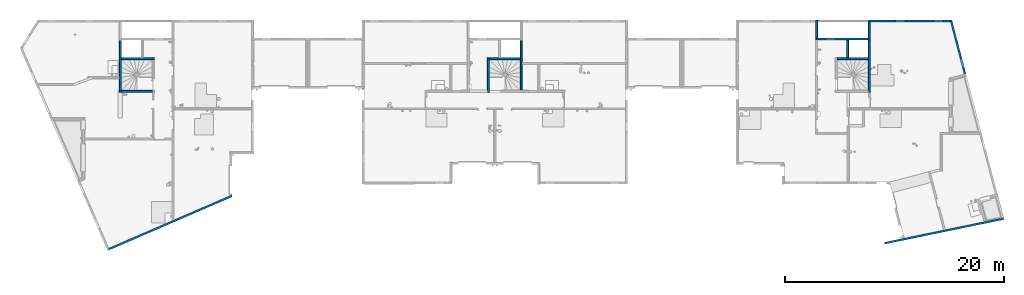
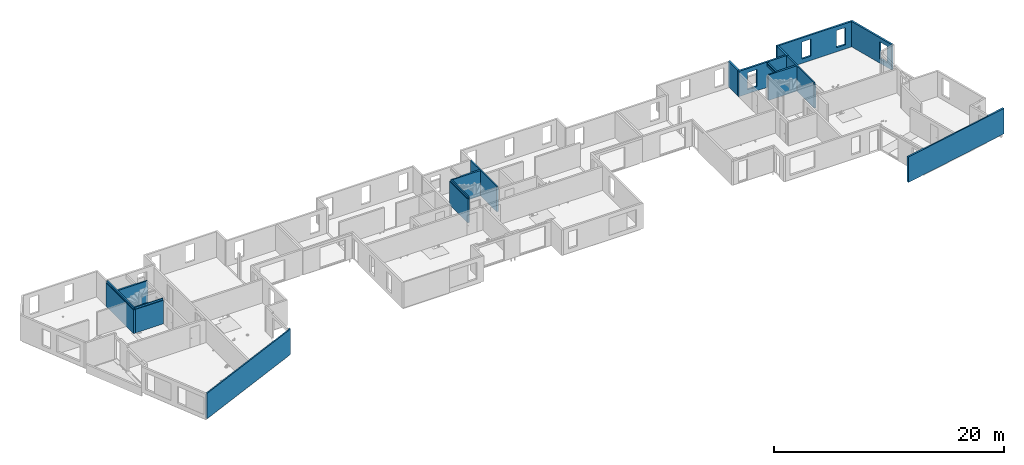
# One storey, part 19 of 30: 16 walls, 10 openings.
"""IFC2X3 building model written with IfcOpenShell, lengths in centimetres."""

from ifc_helpers import new_model, entity, si_unit, converted_unit, derived_unit, direction, frame, frame_2d, origin, place, context, subcontext, project, spatial, polyline, rectangle, outline, extrude, clip, bounded_halfspace, faceted_brep, material, layer, layer_set, layer_usage, type_object, element, save


model = new_model("IFC2X3")

# Units and contexts
model_context = context("Model", 3, precision=0.001, world=origin(), true_north=direction((6.12303176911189e-17, 1.0)))
body_context = subcontext(model_context, "Body", "Model", "MODEL_VIEW")
ifc_project = project(units=[si_unit("LENGTHUNIT", "METRE", prefix="CENTI"), si_unit("AREAUNIT", "SQUARE_METRE"), si_unit("VOLUMEUNIT", "CUBIC_METRE"), converted_unit("PLANEANGLEUNIT", "DEGREE", entity("IfcRatioMeasure", 0.0174532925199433), si_unit("PLANEANGLEUNIT", "RADIAN"), dimensions=[0, 0, 0, 0, 0, 0, 0]), si_unit("MASSUNIT", "GRAM", prefix="KILO"), derived_unit("MASSDENSITYUNIT", [(si_unit("MASSUNIT", "GRAM", prefix="KILO"), 1), (si_unit("LENGTHUNIT", "METRE"), -3)]), si_unit("TIMEUNIT", "SECOND"), si_unit("FREQUENCYUNIT", "HERTZ"), si_unit("THERMODYNAMICTEMPERATUREUNIT", "DEGREE_CELSIUS"), derived_unit("THERMALTRANSMITTANCEUNIT", [(si_unit("MASSUNIT", "GRAM", prefix="KILO"), 1), (si_unit("THERMODYNAMICTEMPERATUREUNIT", "KELVIN"), -1), (si_unit("TIMEUNIT", "SECOND"), -3)]), derived_unit("VOLUMETRICFLOWRATEUNIT", [(si_unit("LENGTHUNIT", "METRE"), 3), (si_unit("TIMEUNIT", "SECOND"), -1)]), si_unit("ELECTRICCURRENTUNIT", "AMPERE"), si_unit("ELECTRICVOLTAGEUNIT", "VOLT"), si_unit("POWERUNIT", "WATT"), si_unit("FORCEUNIT", "NEWTON"), si_unit("ILLUMINANCEUNIT", "LUX"), si_unit("LUMINOUSFLUXUNIT", "LUMEN"), si_unit("LUMINOUSINTENSITYUNIT", "CANDELA"), derived_unit("USERDEFINED", [(si_unit("MASSUNIT", "GRAM", prefix="KILO"), -1), (si_unit("LENGTHUNIT", "METRE"), -2), (si_unit("TIMEUNIT", "SECOND"), 3), (si_unit("LUMINOUSFLUXUNIT", "LUMEN"), 1)]), derived_unit("LINEARVELOCITYUNIT", [(si_unit("LENGTHUNIT", "METRE"), 1), (si_unit("TIMEUNIT", "SECOND"), -1)]), si_unit("PRESSUREUNIT", "PASCAL"), derived_unit("USERDEFINED", [(si_unit("LENGTHUNIT", "METRE"), -2), (si_unit("MASSUNIT", "GRAM", prefix="KILO"), 1), (si_unit("TIMEUNIT", "SECOND"), -2)])], contexts=[model_context])

# Site, building, storey
site_placement = place(None, origin())
site = spatial("IfcSite", under=ifc_project, at=site_placement, Name="Default", CompositionType="ELEMENT")
building_placement = place(site_placement, origin())
building = spatial("IfcBuilding", under=site, at=building_placement, Name="CAGE 03", CompositionType="ELEMENT")
storey_placement = place(building_placement, frame((0.0, 0.0, 610.0)))
storey = spatial("IfcBuildingStorey", under=building, at=storey_placement, Name="R+2", CompositionType="ELEMENT", Elevation=610.0)

# Wall, openings
ifc_material = material(Name="Béton, C25/30")
ifc_layer = layer(ifc_material, 18.0)
ifc_layer_set = layer_set([ifc_layer], Name="Mur de base:Voile BA 18")
ifc_layer_usage_1 = layer_usage(ifc_layer_set, "AXIS2", "NEGATIVE", 9.0)
wall_type_1 = type_object("IfcWallType", Name="Mur de base:Voile BA 18", PredefinedType="STANDARD", material=ifc_layer_set)
wall_1_placement = place(storey_placement, frame((11373.0570193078, 4801.46871667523, 0.0), z_axis=(0.0, 0.0, 1.0), x_axis=(-0.252679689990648, 0.967549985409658, 0.0)))
wall_1 = element("IfcWallStandardCase", 1, at=wall_1_placement, inside=storey, type_object=wall_type_1, material=ifc_layer_usage_1, Name="Mur de base:Voile BA 18", ObjectType="Mur de base:Voile BA 18", context=body_context, shape_type="SweptSolid", body=[
    extrude(outline(polyline([(506.348860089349, -9.0), (511.049634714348, 9.0), (492.445944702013, 9.0), (0.0, 9.0), (0.0, -9.0), (506.348860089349, -9.0)])), origin(), (0.0, 0.0, 1.0), 270.0),
])
opening_1_placement = place(wall_1_placement, origin())
element("IfcOpeningElement", 2, at=opening_1_placement, cuts=wall_1, Name="Mur de base:Voile BA 18", ObjectType="Recess", context=body_context, shape_type="SweptSolid", body=[
    extrude(rectangle(XDim=181.0, YDim=184.0, at=frame_2d((4.2632564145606e-13, 5.6843418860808e-14), x_axis=(0.0, 1.0))), frame((238.0, -9.0, 135.5), z_axis=(0.0, 1.0, 0.0), x_axis=(1.0, 0.0, 0.0)), (0.0, 0.0, 1.0), 1.99999999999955),
])
opening_2_placement = place(wall_1_placement, origin())
element("IfcOpeningElement", 3, at=opening_2_placement, cuts=wall_1, Name="Mur de base:Voile BA 18", ObjectType="Recess", context=body_context, shape_type="SweptSolid", body=[
    extrude(rectangle(XDim=181.0, YDim=273.0, at=frame_2d((-2.1316282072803e-13, 1.06581410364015e-13), x_axis=(0.0, 1.0))), frame((-854.500000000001, -9.0, 135.5), z_axis=(0.0, 1.0, 0.0), x_axis=(1.0, 0.0, 0.0)), (0.0, 0.0, 1.0), 1.99999999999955),
])
opening_3_placement = place(wall_1_placement, frame((-1771.9204648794, 12217.2347799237, 0.0), z_axis=(0.0, 0.0, 1.0), x_axis=(-0.252679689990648, -0.967549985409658, 0.0)))
element("IfcOpeningElement", 4, at=opening_3_placement, cuts=wall_1, Name="Mur de base:Voile BA 18", ObjectType="Opening", context=body_context, shape_type="SweptSolid", body=[
    extrude(rectangle(XDim=181.0, YDim=91.0000000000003, at=frame_2d((0.0, -2.16715534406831e-13), x_axis=(1.0, 0.0))), frame((11503.8252781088, 4939.48999217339, 135.5), z_axis=(-0.967549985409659, -0.252679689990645, 0.0), x_axis=(0.0, 0.0, 1.0)), (0.0, 0.0, 1.0), 304.8),
])

ifc_layer_usage_2 = layer_usage(ifc_layer_set, "AXIS2", "NEGATIVE", 9.0)
wall_2_placement = place(storey_placement, frame((11239.9179807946, 5284.66066607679, 0.0), z_axis=(0.0, 0.0, 1.0), x_axis=(-1.0, 0.0, 0.0)))
wall_2 = element("IfcWallStandardCase", 5, at=wall_2_placement, inside=storey, type_object=wall_type_1, material=ifc_layer_usage_2, Name="Mur de base:Voile BA 18", ObjectType="Mur de base:Voile BA 18", context=body_context, shape_type="SweptSolid", body=[
    extrude(outline(polyline([(749.552160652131, -9.0), (749.552160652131, 9.0), (731.552160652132, 9.0), (0.0, 9.0), (4.70077462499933, -9.0), (749.552160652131, -9.0)])), origin(), (0.0, 0.0, 1.0), 270.0),
])
opening_4_placement = place(wall_2_placement, origin())
element("IfcOpeningElement", 6, at=opening_4_placement, cuts=wall_2, Name="Mur de base:Voile BA 18", ObjectType="Recess", context=body_context, shape_type="SweptSolid", body=[
    extrude(rectangle(XDim=181.0, YDim=184.0, at=frame_2d((0.0, 5.6843418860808e-14), x_axis=(0.0, 1.0))), frame((591.552160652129, -9.0, 135.5), z_axis=(0.0, 1.0, 0.0), x_axis=(1.0, 0.0, 0.0)), (0.0, 0.0, 1.0), 1.99999999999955),
])
opening_5_placement = place(wall_2_placement, origin())
element("IfcOpeningElement", 7, at=opening_5_placement, cuts=wall_2, Name="Mur de base:Voile BA 18", ObjectType="Recess", context=body_context, shape_type="SweptSolid", body=[
    extrude(rectangle(XDim=181.0, YDim=184.0, at=frame_2d((0.0, -5.6843418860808e-14), x_axis=(0.0, 1.0))), frame((246.552160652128, -9.0, 135.499999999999), z_axis=(0.0, 1.0, 0.0), x_axis=(1.0, 0.0, 0.0)), (0.0, 0.0, 1.0), 1.99999999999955),
])
opening_6_placement = place(wall_2_placement, frame((11239.9179807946, 5284.66066607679, 0.0), z_axis=(0.0, 0.0, 1.0), x_axis=(-1.0, 0.0, 0.0)))
element("IfcOpeningElement", 8, at=opening_6_placement, cuts=wall_2, Name="Mur de base:Voile BA 18", ObjectType="Opening", context=body_context, shape_type="SweptSolid", body=[
    extrude(rectangle(XDim=181.0, YDim=90.9999999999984, at=frame_2d((-8.66862137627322e-13, 0.0), x_axis=(0.0, 1.0))), frame((10785.8658201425, 5428.06066607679, 135.5), z_axis=(0.0, -1.0, 0.0), x_axis=(1.0, 0.0, 0.0)), (0.0, 0.0, 1.0), 304.8),
])
opening_7_placement = place(wall_2_placement, frame((11239.9179807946, 5284.66066607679, 0.0), z_axis=(0.0, 0.0, 1.0), x_axis=(-1.0, 0.0, 0.0)))
element("IfcOpeningElement", 9, at=opening_7_placement, cuts=wall_2, Name="Mur de base:Voile BA 18", ObjectType="Opening", context=body_context, shape_type="SweptSolid", body=[
    extrude(rectangle(XDim=181.0, YDim=90.9999999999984, at=frame_2d((8.66862137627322e-13, 0.0), x_axis=(0.0, 1.0))), frame((11130.8658201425, 5428.06066607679, 135.5), z_axis=(0.0, -1.0, 0.0), x_axis=(1.0, 0.0, 0.0)), (0.0, 0.0, 1.0), 304.8),
])

# Wall
ifc_layer_usage_3 = layer_usage(ifc_layer_set, "AXIS2", "POSITIVE", -9.0)
wall_3_placement = place(storey_placement, frame((10499.3658201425, 5275.66066607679, 0.0), z_axis=(0.0, 0.0, 1.0), x_axis=(0.0, -1.0, 0.0)))
element("IfcWallStandardCase", 10, at=wall_3_placement, inside=storey, type_object=wall_type_1, material=ifc_layer_usage_3, Name="Mur de base:Voile BA 18", ObjectType="Mur de base:Voile BA 18", context=body_context, shape_type="SweptSolid", body=[
    extrude(rectangle(XDim=164.999999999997, YDim=17.9999999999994, at=frame_2d((82.4999999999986, 1.11022302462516e-13), x_axis=(-1.0, 0.0))), origin(), (0.0, 0.0, 1.0), 270.0),
])

# Wall, openings
ifc_layer_usage_4 = layer_usage(ifc_layer_set, "AXIS2", "POSITIVE", -9.0)
wall_4_placement = place(storey_placement, frame((10490.3658201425, 5119.66066607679, 0.0), z_axis=(0.0, 0.0, 1.0), x_axis=(-1.0, 0.0, 0.0)))
wall_4 = element("IfcWallStandardCase", 11, at=wall_4_placement, inside=storey, type_object=wall_type_1, material=ifc_layer_usage_4, Name="Mur de base:Voile BA 18", ObjectType="Mur de base:Voile BA 18", context=body_context, shape_type="SweptSolid", body=[
    extrude(rectangle(XDim=480.0, YDim=17.9999999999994, at=frame_2d((240.0, -1.90958360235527e-13), x_axis=(-1.0, 0.0))), origin(), (0.0, 0.0, 1.0), 270.0),
])
opening_8_placement = place(wall_4_placement, origin())
element("IfcOpeningElement", 12, at=opening_8_placement, cuts=wall_4, Name="Mur de base:Voile BA 18", ObjectType="Opening", context=body_context, shape_type="SweptSolid", body=[
    extrude(rectangle(XDim=227.0, YDim=17.9999999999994, at=frame_2d((0.0, 4.9737991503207e-14), x_axis=(0.0, 1.0))), frame((189.0, 9.0, 113.5), z_axis=(0.0, 1.0, 0.0), x_axis=(-1.0, 0.0, 0.0)), (0.0, 0.0, 1.0), 160.0),
])
opening_9_placement = place(wall_4_placement, frame((10490.3658201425, 5119.66066607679, 0.0), z_axis=(0.0, 0.0, 1.0), x_axis=(-1.0, 0.0, 0.0)))
element("IfcOpeningElement", 13, at=opening_9_placement, cuts=wall_4, Name="Mur de base:Voile BA 18", ObjectType="Opening", context=body_context, shape_type="SweptSolid", body=[
    extrude(rectangle(XDim=181.0, YDim=95.0000000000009, at=frame_2d((8.66862137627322e-13, 0.0), x_axis=(0.0, 1.0))), frame((10145.8658201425, 5263.06066607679, 135.5), z_axis=(0.0, -1.0, 0.0), x_axis=(1.0, 0.0, 0.0)), (0.0, 0.0, 1.0), 304.8),
])

# Wall, opening
ifc_layer_usage_5 = layer_usage(ifc_layer_set, "AXIS2", "NEGATIVE", 9.0)
wall_5_placement = place(storey_placement, frame((10301.3658201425, 5110.66066607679, 227.0), z_axis=(0.0, 0.0, 1.0), x_axis=(0.0, -1.0, 0.0)))
wall_5 = element("IfcWallStandardCase", 14, at=wall_5_placement, inside=storey, type_object=wall_type_1, material=ifc_layer_usage_5, Name="Mur de base:Voile BA 18", ObjectType="Mur de base:Voile BA 18", context=body_context, shape_type="Clipping", body=[
    clip(clip(extrude(rectangle(XDim=160.000000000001, YDim=17.9999999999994, at=frame_2d((80.0000000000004, 0.0), x_axis=(-1.0, 0.0))), origin(), (0.0, 0.0, 1.0), 36.0), bounded_halfspace(frame((160.0, -6.0, 23.0), z_axis=(0.0, 0.0, -1.0), x_axis=(1.0, 0.0, 0.0)), True, frame((160.0, -6.0, 23.0), z_axis=(0.0, 0.0, -1.0), x_axis=(1.0, 0.0, 0.0)), polyline([(0.0, 0.0), (0.0, 3.0), (-160.0, 3.0), (-160.0, 0.0), (0.0, 0.0)]))), bounded_halfspace(frame((0.0, -6.0, 23.0), z_axis=(0.0, 1.0, 0.0), x_axis=(0.0, 0.0, 1.0)), True, frame((0.0, -6.0, 23.0), z_axis=(0.0, 1.0, 0.0), x_axis=(0.0, 0.0, 1.0)), polyline([(0.0, 0.0), (13.0, 0.0), (13.0, 160.0), (0.0, 160.0), (0.0, 0.0)]))),
])
opening_10_placement = place(wall_5_placement, frame((5110.66066607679, -10301.3658201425, -227.0), z_axis=(0.0, 0.0, 1.0), x_axis=(0.0, 1.0, 0.0)))
element("IfcOpeningElement", 15, at=opening_10_placement, cuts=wall_5, Name="Mur de base:Voile BA 18", ObjectType="Opening", context=body_context, shape_type="SweptSolid", body=[
    extrude(rectangle(XDim=227.0, YDim=160.0, at=frame_2d((0.0, 4.9737991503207e-14), x_axis=(0.0, 1.0))), frame((10157.9658201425, 5030.66066607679, 113.5), z_axis=(1.0, 0.0, 0.0), x_axis=(0.0, 1.0, 0.0)), (0.0, 0.0, 1.0), 304.8),
])

# Walls
ifc_layer_usage_6 = layer_usage(ifc_layer_set, "AXIS2", "POSITIVE", -9.0)
wall_6_placement = place(storey_placement, frame((10019.3658201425, 5128.66066607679, 0.0), z_axis=(0.0, 0.0, 1.0), x_axis=(0.0, 1.0, 0.0)))
element("IfcWallStandardCase", 16, at=wall_6_placement, inside=storey, type_object=wall_type_1, material=ifc_layer_usage_6, Name="Mur de base:Voile BA 18", ObjectType="Mur de base:Voile BA 18", context=body_context, shape_type="SweptSolid", body=[
    extrude(rectangle(XDim=165.000000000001, YDim=17.9999999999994, at=frame_2d((82.5000000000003, 1.74082970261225e-13), x_axis=(-1.0, 0.0))), origin(), (0.0, 0.0, 1.0), 270.0),
])
wall_type_2 = type_object("IfcWallType", Name="Mur de base:premur 18", PredefinedType="NOTDEFINED")
wall_7_placement = place(storey_placement, frame((3672.36582014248, 4941.66066607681, 0.0)))
element("IfcWall", 17, at=wall_7_placement, inside=storey, type_object=wall_type_2, Name="Mur de base:premur 18", ObjectType="Mur de base:premur 18", context=body_context, shape_type="Brep", body=[
    faceted_brep([(0.0, -9.0, 0.0), (282.0, -9.0, 0.0), (294.5, -9.0, 0.0), (300.0, -9.0, 0.0), (300.0, -9.0, 250.0), (294.5, -9.0, 250.0), (294.5, -9.0, 270.0), (282.0, -9.0, 270.0), (0.0, -9.0, 270.0), (300.0, 9.0, 0.0), (195.0, 9.0, 0.0), (0.0, 9.0, 0.0), (0.0, 9.0, 270.0), (195.0, 9.0, 270.0), (195.0, 9.0, 250.0), (300.0, 9.0, 250.0), (294.5, 3.50000000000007, 270.0), (195.0, 3.50000000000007, 270.0), (195.0, 3.50000000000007, 250.0), (294.5, 3.50000000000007, 250.0)], [[[0, 1, 2, 3, 4, 5, 6, 7, 8]], [[9, 10, 11, 12, 13, 14, 15]], [[3, 2, 1, 0, 11, 10, 9]], [[12, 8, 7, 6, 16, 17, 13]], [[3, 9, 15, 4]], [[0, 8, 12, 11]], [[18, 19, 5, 4, 15, 14]], [[19, 18, 17, 16]], [[19, 16, 6, 5]], [[17, 18, 14, 13]]]),
])
wall_8_placement = place(storey_placement, frame((3663.36582014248, 5110.66066607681, 0.0), z_axis=(0.0, 0.0, 1.0), x_axis=(0.0, -1.0, 0.0)))
element("IfcWall", 18, at=wall_8_placement, inside=storey, type_object=wall_type_2, Name="Mur de base:premur 18", ObjectType="Mur de base:premur 18", context=body_context, shape_type="Brep", body=[
    faceted_brep([(0.0, -9.0, 0.0), (335.5, -9.0, 0.0), (351.5, -9.0, 0.0), (478.0, -9.0, 0.0), (478.0, -9.0, 250.0), (351.5, -9.0, 250.0), (335.500000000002, -9.0, 250.0), (312.500000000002, -9.0, 250.0), (0.0, -9.0, 250.0), (478.0, 9.0, 0.0), (472.5, 9.0, 0.0), (460.0, 9.0, 0.0), (178.0, 9.0, 0.0), (160.0, 9.0, 0.0), (0.0, 9.0, 0.0), (0.0, 9.0, 270.0), (160.0, 9.0, 270.0), (178.0, 9.0, 270.0), (460.0, 9.0, 270.0), (472.5, 9.0, 270.0), (472.5, 9.0, 250.0), (478.0, 9.0, 250.0), (0.0, -3.50000000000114, 0.0), (0.0, -3.50000000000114, 270.0), (472.5, -3.49999999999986, 270.0), (478.0, -2.0, 250.0), (0.0, -3.50000000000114, 250.0), (472.5, -3.49999999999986, 250.0)], [[[0, 1, 2, 3, 4, 5, 6, 7, 8]], [[9, 10, 11, 12, 13, 14, 15, 16, 17, 18, 19, 20, 21]], [[3, 2, 1, 0, 22, 14, 13, 12, 11, 10, 9]], [[19, 18, 17, 16, 15, 23, 24]], [[3, 9, 21, 25, 4]], [[15, 14, 22, 0, 8, 26, 23]], [[27, 26, 8, 7, 6, 5, 4, 25, 21, 20]], [[24, 27, 20, 19]], [[26, 27, 24, 23]]]),
])
wall_9_placement = place(storey_placement, frame((3672.36582014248, 4641.66066607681, 0.0)))
element("IfcWall", 19, at=wall_9_placement, inside=storey, type_object=wall_type_2, Name="Mur de base:premur 18", ObjectType="Mur de base:premur 18", context=body_context, shape_type="Brep", body=[
    faceted_brep([(0.0, -9.0, 0.0), (282.0, -9.0, 0.0), (282.0, -9.0, 250.0), (49.0, -9.0, 250.0), (0.0, -9.0, 250.0), (282.0, 9.0, 0.0), (141.0, 9.0, 0.0), (0.0, 9.0, 0.0), (0.0, 9.0, 270.0), (141.0, 9.0, 270.0), (141.0, 9.0, 250.0), (282.0, 9.0, 250.0), (282.0, 9.0, 210.0), (0.0, -3.50000000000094, 0.0), (282.0, 3.50000000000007, 0.0), (282.0, -3.50000000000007, 0.0), (0.0, -3.50000000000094, 270.0), (282.0, -3.50000000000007, 270.0), (282.0, 3.50000000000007, 270.0), (141.0, 3.50000000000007, 270.0), (0.0, -3.50000000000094, 250.0), (282.0, 3.50000000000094, 250.0), (282.0, -3.50000000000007, 250.0), (141.0, 3.50000000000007, 250.0)], [[[0, 1, 2, 3, 4]], [[5, 6, 7, 8, 9, 10, 11, 12]], [[1, 0, 13, 7, 6, 5, 14, 15]], [[16, 17, 18, 19, 9, 8]], [[8, 7, 13, 0, 4, 20, 16]], [[1, 15, 14, 5, 12, 11, 21, 18, 17, 22, 2]], [[3, 2, 22, 20, 4]], [[17, 16, 20, 22]], [[23, 21, 11, 10]], [[19, 23, 10, 9]], [[23, 19, 18, 21]]]),
])
wall_10_placement = place(storey_placement, frame((3560.31790700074, 3202.58674002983, 0.0), z_axis=(0.0, 0.0, 1.0), x_axis=(0.917772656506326, 0.39710622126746, 0.0)))
element("IfcWall", 20, at=wall_10_placement, inside=storey, type_object=wall_type_2, Name="Mur de base:premur 18", ObjectType="Mur de base:premur 18", context=body_context, shape_type="Brep", body=[
    faceted_brep([(0.0, -9.0, 0.0), (1196.89113568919, -9.0, 0.0), (1216.50383592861, -9.0, 0.0), (1216.50383592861, -9.0, 270.0), (1196.89113568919, -9.0, 270.0), (0.0, -9.0, 270.0), (1224.29216120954, 9.0, 0.0), (1204.67946097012, 9.0, 0.0), (648.986287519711, 9.0, 0.0), (629.373587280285, 9.0, 0.0), (0.0, 9.0, 0.0), (0.0, 9.0, 250.0), (629.373587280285, 9.0, 250.0), (648.986287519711, 9.0, 250.0), (1204.67946097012, 9.0, 250.0), (1204.67946097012, 9.0, 270.0), (1222.11297229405, 9.0, 270.0), (1224.29216120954, 9.0, 270.0), (1224.29216120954, 9.0, 250.0), (0.0, 3.50000000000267, 0.0), (1216.51102982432, -8.98337381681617, 0.0), (1202.29969491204, 3.49999999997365, 270.0), (0.0, 3.50000000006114, 270.0), (0.0, 3.50000000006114, 250.0), (1202.29969491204, 3.49999999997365, 250.0)], [[[0, 1, 2, 3, 4, 5]], [[6, 7, 8, 9, 10, 11, 12, 13, 14, 15, 16, 17, 18]], [[2, 1, 0, 19, 10, 9, 8, 7, 6, 20]], [[5, 4, 3, 17, 16, 15, 21, 22]], [[3, 2, 20, 6, 18, 17]], [[23, 24, 14, 13, 12, 11]], [[24, 21, 15, 14]], [[24, 23, 22, 21]], [[10, 19, 0, 5, 22, 23, 11]]]),
])
wall_11_placement = place(storey_placement, frame((7022.36582014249, 4632.6606660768, 0.0), z_axis=(0.0, 0.0, 1.0), x_axis=(0.0, 1.0, 0.0)))
element("IfcWall", 21, at=wall_11_placement, inside=storey, type_object=wall_type_2, Name="Mur de base:premur 18", ObjectType="Mur de base:premur 18", context=body_context, shape_type="Brep", body=[
    faceted_brep([(0.0, -9.0, 0.0), (5.50000000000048, -9.0, 0.0), (300.0, -9.0, 0.0), (312.499999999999, -9.0, 0.0), (318.0, -9.0, 0.0), (318.0, -9.0, 250.0), (312.499999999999, -9.0, 250.0), (312.499999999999, -9.0, 270.0), (300.0, -9.0, 270.0), (12.5000000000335, -9.0, 270.0), (5.50000000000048, -9.0, 270.0), (5.50000000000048, -9.0, 250.0), (0.0, -9.0, 250.0), (0.0, -9.0, 210.0), (318.0, 9.0, 0.0), (0.0, 9.0, 0.0), (0.0, 9.0, 250.0), (318.0, 9.0, 250.0), (312.499999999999, 3.50000000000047, 270.0), (5.50000000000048, 3.50000000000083, 270.0), (5.50000000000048, 3.50000000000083, 250.0), (312.499999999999, 3.50000000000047, 250.0)], [[[0, 1, 2, 3, 4, 5, 6, 7, 8, 9, 10, 11, 12, 13]], [[14, 15, 16, 17]], [[4, 3, 2, 1, 0, 15, 14]], [[10, 9, 8, 7, 18, 19]], [[4, 14, 17, 5]], [[15, 0, 13, 12, 16]], [[20, 21, 6, 5, 17, 16, 12, 11]], [[21, 18, 7, 6]], [[21, 20, 19, 18]], [[19, 20, 11, 10]]]),
])
wall_12_placement = place(storey_placement, frame((7031.36582014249, 4941.6606660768, 0.0)))
element("IfcWall", 22, at=wall_12_placement, inside=storey, type_object=wall_type_2, Name="Mur de base:premur 18", ObjectType="Mur de base:premur 18", context=body_context, shape_type="Brep", body=[
    faceted_brep([(0.0, -9.0, 0.0), (282.0, -9.0, 0.0), (282.0, -9.0, 270.0), (0.0, -9.0, 270.0), (282.0, 9.0, 0.0), (87.0, 9.0, 0.0), (0.0, 9.0, 0.0), (0.0, 9.0, 250.0), (87.0, 9.0, 250.0), (87.0, 9.0, 270.0), (282.0, 9.0, 270.0), (0.0, 3.50000000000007, 0.0), (87.0, 3.50000000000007, 270.0), (0.0, 3.50000000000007, 270.0), (0.0, 3.50000000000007, 250.0), (87.0, 3.50000000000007, 250.0)], [[[0, 1, 2, 3]], [[4, 5, 6, 7, 8, 9, 10]], [[1, 0, 11, 6, 5, 4]], [[3, 2, 10, 9, 12, 13]], [[0, 3, 13, 14, 7, 6, 11]], [[2, 1, 4, 10]], [[15, 8, 7, 14]], [[12, 15, 14, 13]], [[15, 12, 9, 8]]]),
])
wall_13_placement = place(storey_placement, frame((7322.36582014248, 4650.6606660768, 0.0), z_axis=(0.0, 0.0, 1.0), x_axis=(0.0, 1.0, 0.0)))
element("IfcWall", 23, at=wall_13_placement, inside=storey, type_object=wall_type_2, Name="Mur de base:premur 18", ObjectType="Mur de base:premur 18", context=body_context, shape_type="Brep", body=[
    faceted_brep([(0.0, -9.0, 0.0), (237.0, -9.0, 0.0), (253.0, -9.0, 0.0), (460.0, -9.0, 0.0), (460.0, -9.0, 250.0), (460.0, -9.0, 270.0), (459.0, -9.0, 270.0), (459.0, -9.0, 250.0), (253.0, -9.0, 250.0), (237.0, -9.0, 250.0), (0.0, -9.0, 250.0), (460.0, 9.0, 0.0), (300.0, 9.0, 0.0), (282.0, 9.0, 0.0), (0.0, 9.0, 0.0), (0.0, 9.0, 270.0), (282.0, 9.0, 270.0), (300.0, 9.0, 270.0), (460.0, 9.0, 270.0), (0.0, -3.50000000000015, 0.0), (460.0, -3.49999999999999, 0.0), (0.0, -3.50000000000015, 270.0), (459.0, -3.49999999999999, 270.0), (0.0, -3.50000000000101, 250.0), (459.0, -3.49999999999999, 250.0)], [[[0, 1, 2, 3, 4, 5, 6, 7, 8, 9, 10]], [[11, 12, 13, 14, 15, 16, 17, 18]], [[3, 2, 1, 0, 19, 14, 13, 12, 11, 20]], [[18, 17, 16, 15, 21, 22, 6, 5]], [[3, 20, 11, 18, 5, 4]], [[15, 14, 19, 0, 10, 23, 21]], [[7, 24, 23, 10, 9, 8]], [[24, 22, 21, 23]], [[24, 7, 6, 22]]]),
])
wall_14_placement = place(storey_placement, frame((10208.3658201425, 4941.66066607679, 0.0)))
element("IfcWall", 24, at=wall_14_placement, inside=storey, type_object=wall_type_2, Name="Mur de base:premur 18", ObjectType="Mur de base:premur 18", context=body_context, shape_type="Brep", body=[
    faceted_brep([(0.0, -9.0, 0.0), (282.0, -9.0, 0.0), (282.0, -9.0, 270.0), (0.0, -9.0, 270.0), (282.0, 9.0, 0.0), (87.0, 9.0, 0.0), (0.0, 9.0, 0.0), (0.0, 9.0, 250.0), (87.0, 9.0, 250.0), (87.0, 9.0, 270.0), (282.0, 9.0, 270.0), (0.0, 3.50000000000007, 0.0), (87.0, 3.50000000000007, 270.0), (0.0, 3.50000000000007, 270.0), (0.0, 3.50000000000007, 250.0), (87.0, 3.50000000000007, 250.0)], [[[0, 1, 2, 3]], [[4, 5, 6, 7, 8, 9, 10]], [[1, 0, 11, 6, 5, 4]], [[3, 2, 10, 9, 12, 13]], [[0, 3, 13, 14, 7, 6, 11]], [[2, 1, 4, 10]], [[14, 15, 8, 7]], [[12, 15, 14, 13]], [[15, 12, 9, 8]]]),
])
wall_15_placement = place(storey_placement, frame((10637.7468620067, 3255.95402323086, 0.0), z_axis=(0.0, 0.0, 1.0), x_axis=(0.979414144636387, 0.201861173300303, 0.0)))
element("IfcWall", 25, at=wall_15_placement, inside=storey, type_object=wall_type_2, Name="Mur de base:premur 18", ObjectType="Mur de base:premur 18", context=body_context, shape_type="Brep", body=[
    faceted_brep([(0.0, -9.0, 0.0), (1112.01416291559, -9.0, 0.0), (1112.01416291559, -9.0, 270.0), (0.0, -9.0, 270.0), (1112.0141629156, 9.0, 0.0), (946.789185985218, 9.0, 0.0), (928.764643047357, 9.0, 0.0), (569.775829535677, 9.0, 0.0), (551.751286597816, 9.0, 0.0), (185.252246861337, 9.0, 0.0), (167.227703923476, 9.0, 0.0), (0.0, 9.0, 0.0), (0.0, 9.0, 270.0), (167.227703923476, 9.0, 270.0), (185.252246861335, 9.0, 270.0), (185.252246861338, 9.0, 250.0), (551.751286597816, 9.0, 250.0), (569.775829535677, 9.0, 250.0), (928.764643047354, 9.0, 250.0), (928.764643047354, 9.0, 270.0), (946.789185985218, 9.0, 270.0), (1112.0141629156, 9.0, 270.0), (929.051954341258, 3.4999999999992, 270.0), (185.539558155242, 3.5000000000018, 270.0), (185.53955815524, 3.5000000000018, 250.0), (929.051954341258, 3.4999999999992, 250.0)], [[[0, 1, 2, 3]], [[4, 5, 6, 7, 8, 9, 10, 11, 12, 13, 14, 15, 16, 17, 18, 19, 20, 21]], [[1, 0, 11, 10, 9, 8, 7, 6, 5, 4]], [[2, 1, 4, 21]], [[3, 2, 21, 20, 19, 22, 23, 14, 13, 12]], [[0, 3, 12, 11]], [[24, 25, 18, 17, 16, 15]], [[25, 22, 19, 18]], [[25, 24, 23, 22]], [[23, 24, 15, 14]]]),
])
wall_16_placement = place(storey_placement, frame((10499.3658201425, 5110.66066607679, 0.0), z_axis=(0.0, 0.0, 1.0), x_axis=(0.0, -1.0, 0.0)))
element("IfcWall", 26, at=wall_16_placement, inside=storey, type_object=wall_type_2, Name="Mur de base:premur 18", ObjectType="Mur de base:premur 18", context=body_context, shape_type="Brep", body=[
    faceted_brep([(0.0, -9.0, 0.0), (160.0, -9.0, 0.0), (178.0, -9.0, 0.0), (460.0, -9.0, 0.0), (472.500000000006, -9.0, 0.0), (478.0, -9.0, 0.0), (478.0, -9.0, 250.0), (472.500000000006, -9.0, 250.0), (472.500000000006, -9.0, 270.0), (460.0, -9.0, 270.0), (178.0, -9.0, 270.0), (160.0, -9.0, 270.0), (0.0, -9.0, 270.0), (478.0, 9.0, 0.0), (418.0, 9.0, 0.0), (313.0, 9.0, 0.0), (0.0, 9.0, 0.0), (0.0, 9.0, 250.0), (398.0, 9.0, 250.0), (443.0, 9.0, 250.0), (478.0, 9.0, 250.0), (0.0, 3.49999999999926, 0.0), (472.500000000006, 3.49999999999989, 270.0), (0.0, 3.49999999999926, 270.0), (0.0, 3.49999999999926, 250.0), (472.500000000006, 3.49999999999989, 250.0)], [[[0, 1, 2, 3, 4, 5, 6, 7, 8, 9, 10, 11, 12]], [[13, 14, 15, 16, 17, 18, 19, 20]], [[5, 4, 3, 2, 1, 0, 21, 16, 15, 14, 13]], [[12, 11, 10, 9, 8, 22, 23]], [[0, 12, 23, 24, 17, 16, 21]], [[5, 13, 20, 6]], [[24, 25, 7, 6, 20, 19, 18, 17]], [[25, 22, 8, 7]], [[25, 24, 23, 22]]]),
])

save(model, "model.ifc")
